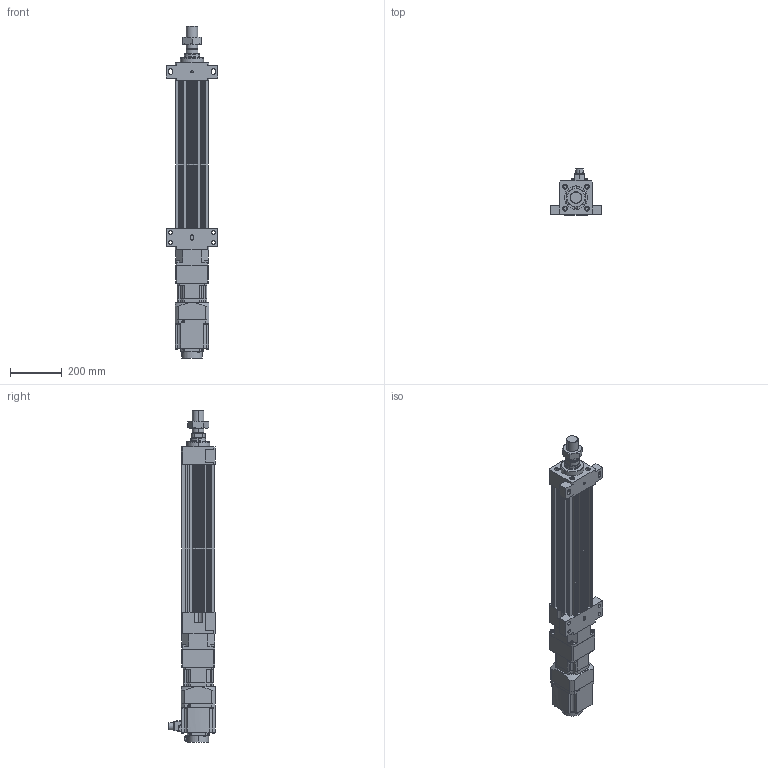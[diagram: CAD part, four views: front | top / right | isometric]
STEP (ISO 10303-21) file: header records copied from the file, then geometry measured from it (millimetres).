
FILE_DESCRIPTION (( 'STEP AP203' ), '1' );
FILE_NAME ('HES130NS(FS)(HS)-S350-W015G00-M-FFB.STEP', '2023-01-30T09:12:30', ( 'tms' ), ( '' ), 'SwSTEP 2.0', 'SolidWorks 2013', '' );
FILE_SCHEMA (( 'CONFIG_CONTROL_DESIGN' ));
Length unit declared in the file: millimetre
Products named in the file (8): AB1151; HES130-S350-G120-FFB; HES130NS(FS)(HS)-S350-W015G00-M-FFB; P0401400706; HES130 ROD M ST350; M45X1.5P; AB115-003[HG-SR152]; HG-SR152
Assembly tree (7 placements, depth 3):
  HES130NS(FS)(HS)-S350-W015G00-M-FFB
    HES130-S350-G120-FFB
    HES130 ROD M ST350
    M45X1.5P
    AB115-003[HG-SR152]
      AB1151
      P0401400706
    HG-SR152
Bounding box: 200 x 177.49 x 1279.5 mm (x, y, z)
Volume: 10234101.3 mm3; surface area: 1298348.5 mm2
Topology: 4 solids, 15 shells, 1211 faces, 3070 edges, 1998 vertices
Faces by surface type: plane 571, cylinder 546, cone 82, bspline 8, torus 4
Entity records: 38310 total; most frequent: CARTESIAN_POINT 7264, DIRECTION 6633, ORIENTED_EDGE 6092, EDGE_CURVE 3056, AXIS2_PLACEMENT_3D 2435, VERTEX_POINT 1998, VECTOR 1763, LINE 1763
